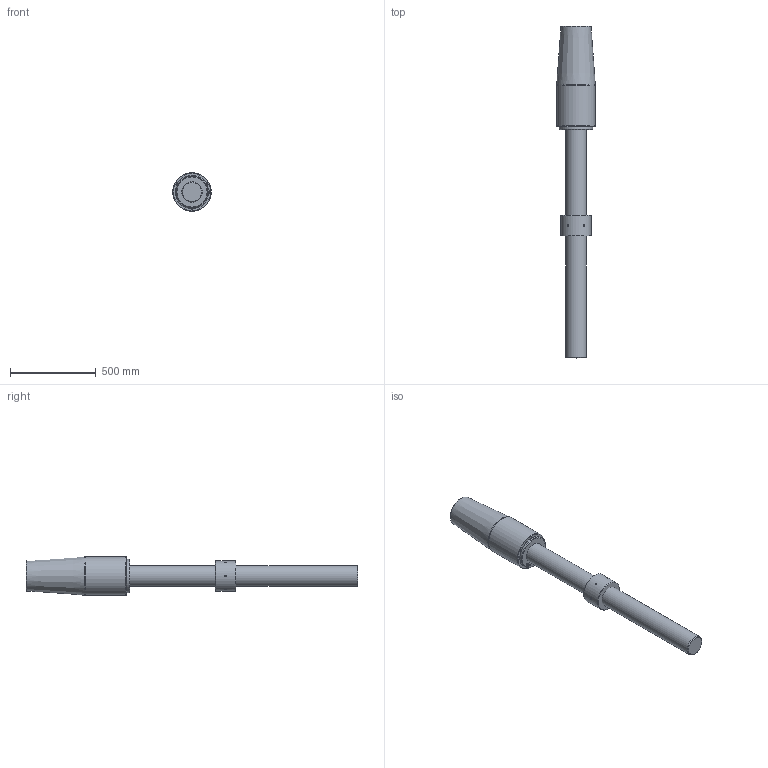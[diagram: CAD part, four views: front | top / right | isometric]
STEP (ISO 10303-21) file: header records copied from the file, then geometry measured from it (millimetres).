
FILE_DESCRIPTION(/* description */ (''),/* implementation_level */ '2;1');
FILE_NAME(/* name */ 'D:\Clienti\Redaelli (inventor)\CYB\STEP\Arrangement\CYB076 52 061 0.stp',/* time_stamp */ '2021-05-08T14:47:32+02:00',/* author */ ('fabri'),/* organization */ (''),/* preprocessor_version */ 'ST-DEVELOPER v16.13',/* originating_system */ 'Autodesk Inventor 2018',/* authorisation */ '');
FILE_SCHEMA (('AUTOMOTIVE_DESIGN { 1 0 10303 214 3 1 1 }'));
Length unit declared in the file: millimetre
Products named in the file (5): CYB076 52 061 0; RNT052 41 051 0_ROD; RNT052 41 051 0_ROD_1; CCY021-51-061-0_BUSH; CCY021-51-061-0
Assembly tree (4 placements, depth 2):
  CYB076 52 061 0
    RNT052 41 051 0_ROD
    RNT052 41 051 0_ROD_1
    CCY021-51-061-0_BUSH
    CCY021-51-061-0
Bounding box: 225 x 1937 x 225 mm (x, y, z)
Volume: 41439622.1 mm3; surface area: 1370858.9 mm2
Topology: 4 solids, 4 shells, 683 faces, 1824 edges, 1211 vertices
Faces by surface type: bspline 360, plane 285, cylinder 18, cone 16, torus 4
Full cylindrical faces by diameter (mm): 10 x6, 10.106 x3, 113.505 x2, 120 x1, 121 x1, 160 x1, 170 x1, 180 x1, 195 x1, 225 x1
Entity records: 23104 total; most frequent: CARTESIAN_POINT 8573, ORIENTED_EDGE 3550, EDGE_CURVE 1775, DIRECTION 1751, VERTEX_POINT 1201, LINE 1001, VECTOR 1001, EDGE_LOOP 788
